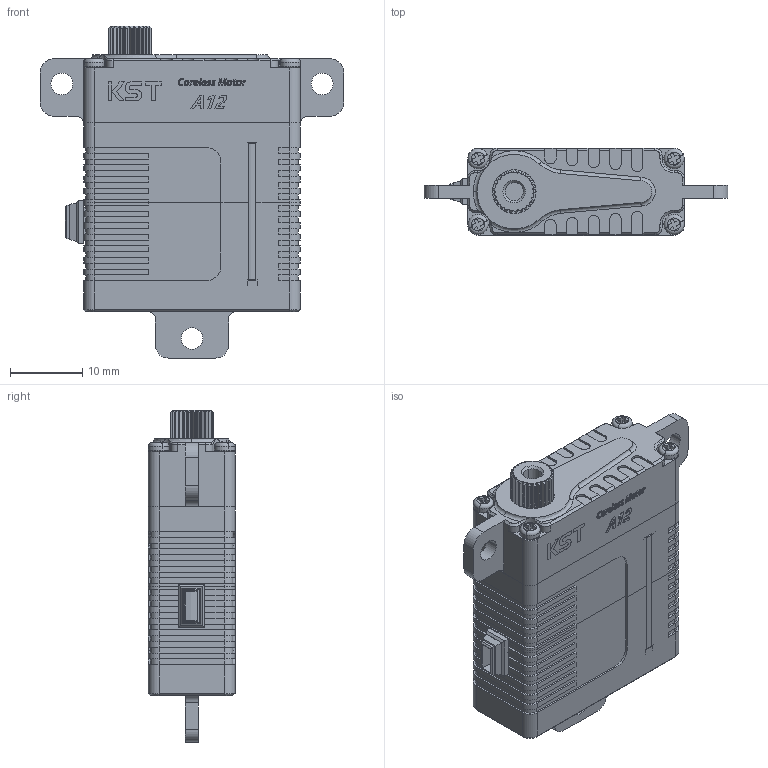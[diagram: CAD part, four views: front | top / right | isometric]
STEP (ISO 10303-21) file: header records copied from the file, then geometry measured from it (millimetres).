
FILE_DESCRIPTION (( 'STEP AP214' ), '1' );
FILE_NAME ('A12_DM_20211122.STEP', '2021-11-22T06:37:36', ( '微软用户' ), ( '微软中国' ), 'SwSTEP 2.0', 'SolidWorks 2016', '' );
FILE_SCHEMA (( 'AUTOMOTIVE_DESIGN' ));
Length unit declared in the file: millimetre
Products named in the file (1): A12_DM_20211122
Bounding box: 42 x 12.1 x 45.9 mm (x, y, z)
Surface area: 5703.2 mm2 (no closed solid volume)
Topology: 0 solids, 33 shells, 967 faces, 2863 edges, 1923 vertices
Faces by surface type: plane 557, cylinder 250, bspline 95, cone 42, torus 23
Entity records: 47650 total; most frequent: CARTESIAN_POINT 11918, ORIENTED_EDGE 5050, DIRECTION 4959, EDGE_CURVE 2863, VECTOR 1957, LINE 1957, VERTEX_POINT 1923, AXIS2_PLACEMENT_3D 1501
